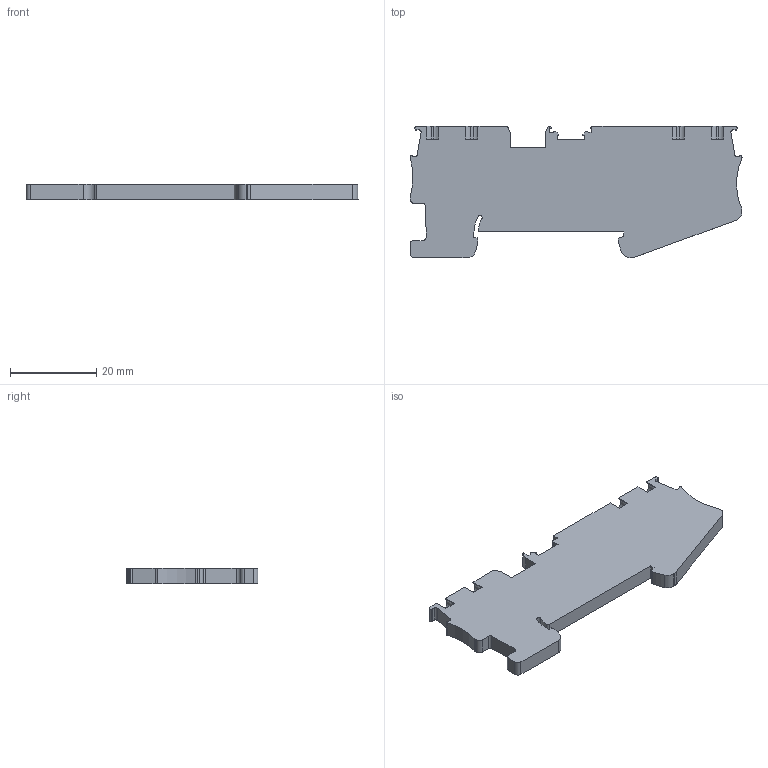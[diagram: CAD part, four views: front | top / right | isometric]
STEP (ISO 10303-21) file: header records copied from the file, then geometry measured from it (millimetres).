
FILE_DESCRIPTION(('SolidDesigner STEP Export'),'2;1');
FILE_NAME('3210327_PT_1.5_S_QUATTRO_TG_BU-select.stp','2013-12-03T10:11:20',(''),(''),'Creo Elements/Direct Modeling STEP processor for AP214 (Solid Model)','Creo Elements/Direct Modeling 18.1 06-May-2012 (C) Parametric Technology GmbH','');
FILE_SCHEMA(('AUTOMOTIVE_DESIGN { 1 0 10303 214 1 1 1 1 }'));
Length unit declared in the file: millimetre
Products named in the file (2): 3210327_PT_1.5_S_QUATTRO_TG_BU-select
Assembly tree (1 placements, depth 2):
  3210327_PT_1.5_S_QUATTRO_TG_BU-select
    3210327_PT_1.5_S_QUATTRO_TG_BU-select
Bounding box: 76.9 x 30.5 x 3.5 mm (x, y, z)
Volume: 6331.8 mm3; surface area: 4914.3 mm2
Topology: 1 solids, 1 shells, 175 faces, 499 edges, 333 vertices
Faces by surface type: plane 112, cylinder 63
Entity records: 7104 total; most frequent: CARTESIAN_POINT 999, ORIENTED_EDGE 998, DIRECTION 961, EDGE_CURVE 499, VECTOR 371, LINE 371, VERTEX_POINT 333, AXIS2_PLACEMENT_3D 295
